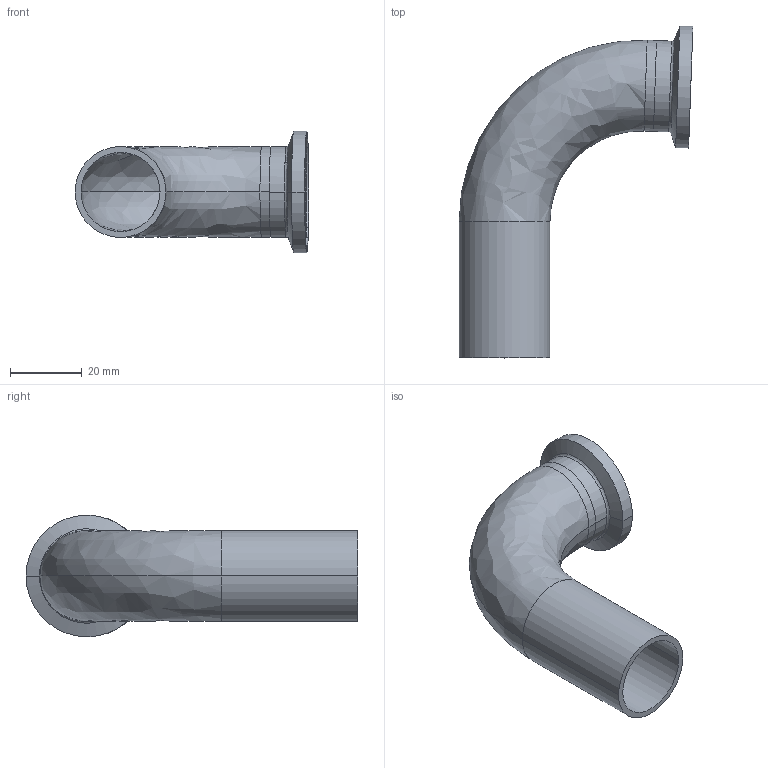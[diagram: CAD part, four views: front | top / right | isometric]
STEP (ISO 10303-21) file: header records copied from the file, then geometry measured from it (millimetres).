
FILE_DESCRIPTION (( 'STEP AP214' ), '1' );
FILE_NAME ('TE2C926L1.0-.._Type A.STEP', '2016-05-22T11:04:05', ( 'eran' ), ( '' ), 'SwSTEP 2.0', 'SolidWorks 2016', '' );
FILE_SCHEMA (( 'AUTOMOTIVE_DESIGN' ));
Length unit declared in the file: millimetre
Products named in the file (1): TE2C926L1.0-.._Type A
Bounding box: 65.36 x 92.81 x 34.01 mm (x, y, z)
Volume: 15054 mm3; surface area: 18119.2 mm2
Topology: 2 solids, 2 shells, 37 faces, 86 edges, 54 vertices
Faces by surface type: cylinder 16, bspline 12, plane 5, cone 4
Entity records: 1265 total; most frequent: CARTESIAN_POINT 370, DIRECTION 196, ORIENTED_EDGE 172, AXIS2_PLACEMENT_3D 88, EDGE_CURVE 86, CIRCLE 62, VERTEX_POINT 54, EDGE_LOOP 42
